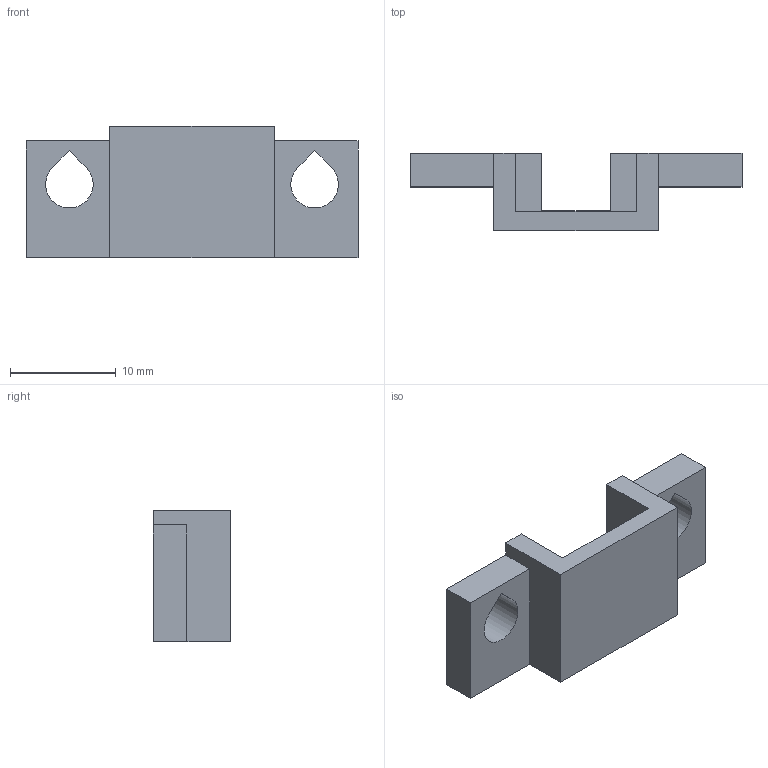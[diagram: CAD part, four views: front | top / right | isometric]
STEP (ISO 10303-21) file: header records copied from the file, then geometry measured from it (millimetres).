
FILE_DESCRIPTION(('Open CASCADE Model'),'2;1');
FILE_NAME('Open CASCADE Shape Model','2026-11-22T17:37:37',('Author'),( 'Open CASCADE'),'Open CASCADE STEP processor 7.9','Open CASCADE 7.9' ,'Unknown');
FILE_SCHEMA(('AUTOMOTIVE_DESIGN { 1 0 10303 214 1 1 1 1 }'));
Length unit declared in the file: millimetre
Products named in the file (1): Open CASCADE STEP translator 7.9 4
Bounding box: 31.4 x 7.35 x 12.46 mm (x, y, z)
Volume: 1138.4 mm3; surface area: 1347.8 mm2
Topology: 1 solids, 1 shells, 26 faces, 72 edges, 48 vertices
Faces by surface type: plane 24, cylinder 2
Entity records: 1780 total; most frequent: CARTESIAN_POINT 303, DIRECTION 272, LINE 208, VECTOR 208, ORIENTED_EDGE 144, PCURVE 144, DEFINITIONAL_REPRESENTATION 144, EDGE_CURVE 72
